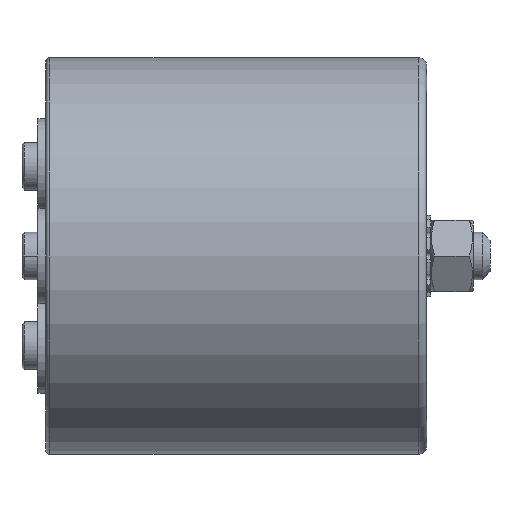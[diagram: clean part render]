
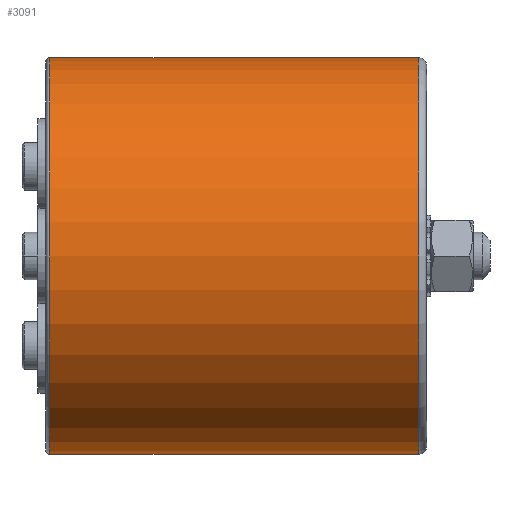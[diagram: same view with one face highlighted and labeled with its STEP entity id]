
A CAD part, left-side view. The second image highlights one B-rep face of the part: STEP entity #3091.
In plain terms, the highlighted cylindrical face has radius 50 mm (diameter 100 mm), a partial arc.
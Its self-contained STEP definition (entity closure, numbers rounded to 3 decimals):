
#108 = CARTESIAN_POINT ( 'NONE',  ( 0., 2., 50. ) ) ;
#139 = CARTESIAN_POINT ( 'NONE',  ( 0., 0., -50. ) ) ;
#218 = AXIS2_PLACEMENT_3D ( 'NONE', #3963, #3572, #4251 ) ;
#341 = EDGE_CURVE ( 'NONE', #4334, #408, #4742, .T. ) ;
#408 = VERTEX_POINT ( 'NONE', #108 ) ;
#574 = ORIENTED_EDGE ( 'NONE', *, *, #341, .F. ) ;
#747 = EDGE_CURVE ( 'NONE', #4392, #4513, #4580, .T. ) ;
#982 = DIRECTION ( 'NONE',  ( 0., 0., -1. ) ) ;
#1441 = CARTESIAN_POINT ( 'NONE',  ( 0., 2., -50. ) ) ;
#1682 = ORIENTED_EDGE ( 'NONE', *, *, #4753, .T. ) ;
#2074 = AXIS2_PLACEMENT_3D ( 'NONE', #3200, #3644, #982 ) ;
#2509 = CIRCLE ( 'NONE', #218, 50. ) ;
#2960 = CARTESIAN_POINT ( 'NONE',  ( 0., 0., 50. ) ) ;
#3091 = ADVANCED_FACE ( 'NONE', ( #3230 ), #3561, .T. ) ;
#3192 = CARTESIAN_POINT ( 'NONE',  ( 0., 95., -50. ) ) ;
#3200 = CARTESIAN_POINT ( 'NONE',  ( 0., 0., 0. ) ) ;
#3230 = FACE_OUTER_BOUND ( 'NONE', #3543, .T. ) ;
#3296 = ORIENTED_EDGE ( 'NONE', *, *, #747, .T. ) ;
#3504 = AXIS2_PLACEMENT_3D ( 'NONE', #4231, #4273, #3547 ) ;
#3543 = EDGE_LOOP ( 'NONE', ( #574, #4030, #3296, #1682 ) ) ;
#3547 = DIRECTION ( 'NONE',  ( 0., 0., -1. ) ) ;
#3561 = CYLINDRICAL_SURFACE ( 'NONE', #2074, 50. ) ;
#3572 = DIRECTION ( 'NONE',  ( 0., -1., 0. ) ) ;
#3644 = DIRECTION ( 'NONE',  ( 0., -1., 0. ) ) ;
#3963 = CARTESIAN_POINT ( 'NONE',  ( 0., 95., 0. ) ) ;
#4030 = ORIENTED_EDGE ( 'NONE', *, *, #4739, .T. ) ;
#4049 = VECTOR ( 'NONE', #4431, 1000. ) ;
#4231 = CARTESIAN_POINT ( 'NONE',  ( 0., 2., 0. ) ) ;
#4251 = DIRECTION ( 'NONE',  ( 0., 0., 1. ) ) ;
#4273 = DIRECTION ( 'NONE',  ( 0., 1., 0. ) ) ;
#4284 = VECTOR ( 'NONE', #4515, 1000. ) ;
#4334 = VERTEX_POINT ( 'NONE', #4626 ) ;
#4392 = VERTEX_POINT ( 'NONE', #3192 ) ;
#4431 = DIRECTION ( 'NONE',  ( 0., -1., 0. ) ) ;
#4513 = VERTEX_POINT ( 'NONE', #1441 ) ;
#4514 = CIRCLE ( 'NONE', #3504, 50. ) ;
#4515 = DIRECTION ( 'NONE',  ( 0., -1., 0. ) ) ;
#4580 = LINE ( 'NONE', #139, #4284 ) ;
#4626 = CARTESIAN_POINT ( 'NONE',  ( 0., 95., 50. ) ) ;
#4739 = EDGE_CURVE ( 'NONE', #4334, #4392, #2509, .T. ) ;
#4742 = LINE ( 'NONE', #2960, #4049 ) ;
#4753 = EDGE_CURVE ( 'NONE', #4513, #408, #4514, .T. ) ;
